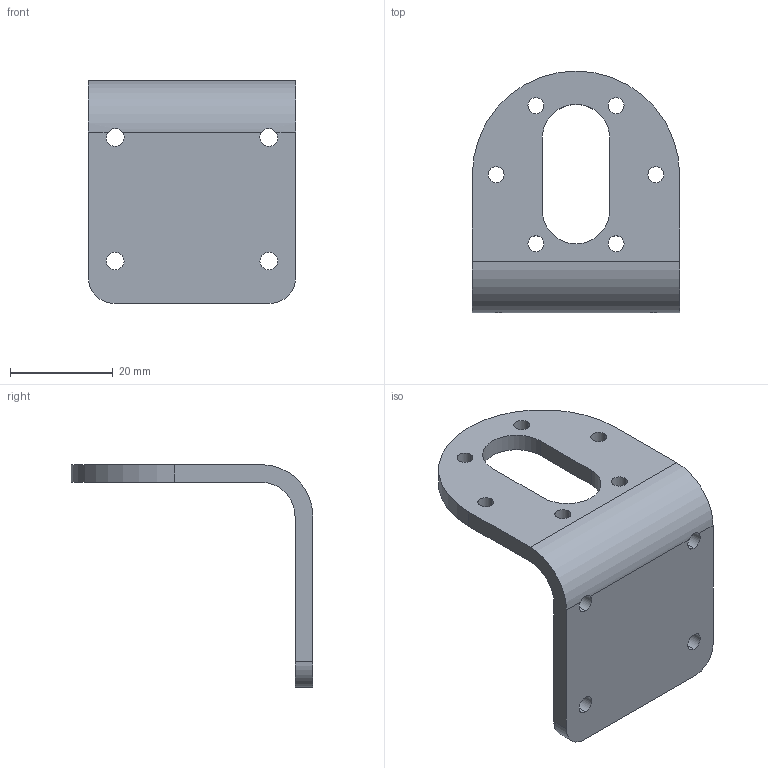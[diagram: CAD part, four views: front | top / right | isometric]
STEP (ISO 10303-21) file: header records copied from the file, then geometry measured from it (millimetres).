
FILE_DESCRIPTION (( 'STEP AP203' ), '1' );
FILE_NAME ('JGB37-520 12 v metal geared motor bracket.STEP', '2025-10-13T11:04:12', ( '' ), ( '' ), 'SwSTEP 2.0', 'SolidWorks 2023', '' );
FILE_SCHEMA (( 'CONFIG_CONTROL_DESIGN' ));
Length unit declared in the file: millimetre
Products named in the file (1): JGB37-520 12 v metal geared motor bracket
Bounding box: 40.35 x 47 x 43.35 mm (x, y, z)
Volume: 9574.2 mm3; surface area: 6919.8 mm2
Topology: 1 solids, 1 shells, 36 faces, 114 edges, 76 vertices
Faces by surface type: cylinder 27, plane 9
Entity records: 1461 total; most frequent: CARTESIAN_POINT 291, DIRECTION 234, ORIENTED_EDGE 228, EDGE_CURVE 114, AXIS2_PLACEMENT_3D 91, VERTEX_POINT 76, CIRCLE 54, EDGE_LOOP 54
